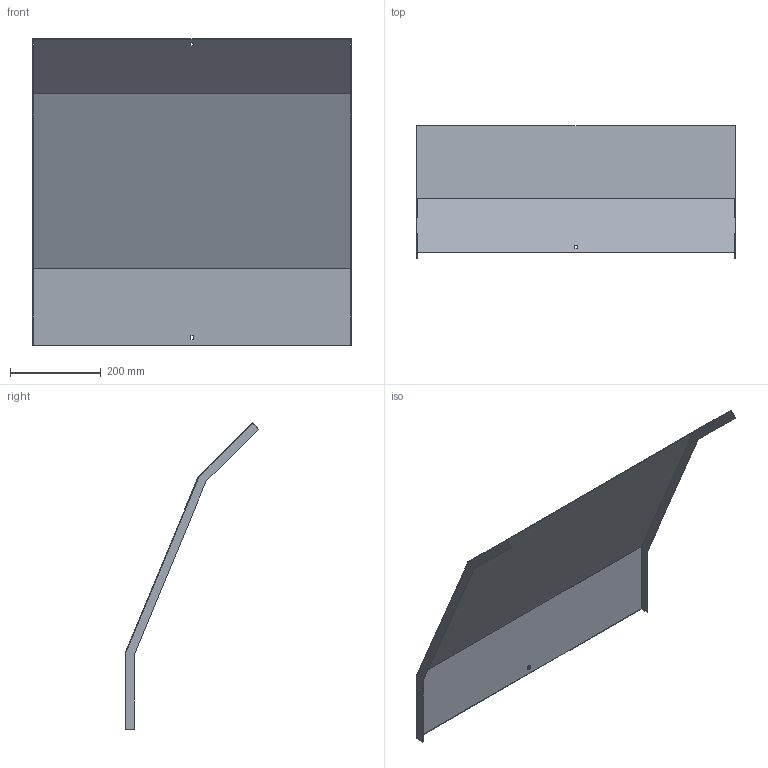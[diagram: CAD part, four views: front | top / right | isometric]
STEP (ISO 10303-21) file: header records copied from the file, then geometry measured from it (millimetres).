
FILE_DESCRIPTION (( 'STEP AP214' ), '1' );
FILE_NAME ('34N5C700.step', '2025-02-21T10:32:50', ( '' ), ( '' ), 'SwSTEP 2.0', 'SolidWorks 2023', '' );
FILE_SCHEMA (( 'AUTOMOTIVE_DESIGN' ));
Length unit declared in the file: millimetre
Products named in the file (1): 34N5C700
Bounding box: 703 x 294.72 x 677.38 mm (x, y, z)
Volume: 841114 mm3; surface area: 1126029.1 mm2
Topology: 1 solids, 1 shells, 26 faces, 72 edges, 48 vertices
Faces by surface type: plane 26
Entity records: 847 total; most frequent: CARTESIAN_POINT 147, ORIENTED_EDGE 144, DIRECTION 126, EDGE_CURVE 72, VECTOR 72, LINE 72, VERTEX_POINT 48, EDGE_LOOP 30
